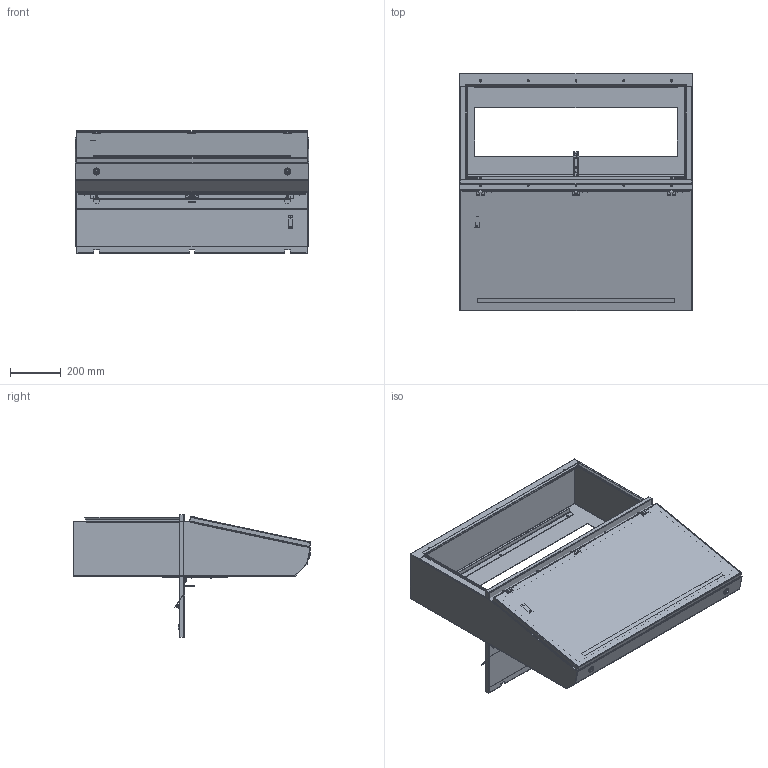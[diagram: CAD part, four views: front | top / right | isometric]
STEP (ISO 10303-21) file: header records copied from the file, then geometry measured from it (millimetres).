
FILE_DESCRIPTION( ( 'Unknown' ), '1' );
FILE_NAME( 'Q:/2000 SERIES/DESK UNITS/WEB DRAWINGS/STEP/2CSD83636.stp', 'Unknown', ( 'Unknown' ), ( 'Unknown' ), 'XStep 1.0', 'Unknown', ' ' );
FILE_SCHEMA( ( 'CONFIG_CONTROL_DESIGN' ) );
Length unit declared in the file: millimetre
Products named in the file (32): Assem1; Assem2; Assem3; Assem4; Assem5; Assem6; Assem7; Assem8; Assem9; 1; 2; 3; 4; 5; 6; 7; 8; 9; 10; 11; 12; 13; 14; 15; 16; 17; 18; 19; 20; 21; 22; 23
Bounding box: 914.4 x 931.78 x 482.6 mm (x, y, z)
Volume: 12299857.5 mm3; surface area: 13447557 mm2
Topology: 103 solids, 103 shells, 2557 faces, 6370 edges, 4113 vertices
Faces by surface type: plane 1689, cylinder 705, bspline 82, cone 42, torus 33, sphere 6
Full cylindrical faces by diameter (mm): 3.175 x12, 4.648 x7, 4.763 x12, 4.801 x8, 5 x9, 5.537 x22, 5.969 x5, 6 x4, 6.096 x5, 6.299 x4, 6.35 x17, 7.137 x15, 7.925 x4, 7.938 x12, 8.331 x4, 9.804 x11, 9.83 x8, 9.931 x7, 10.312 x4, 11.1 x4, 12.7 x14, 12.751 x4, 13.335 x4, 15.875 x4, 16.002 x4, 17.45 x4, 19.5 x4, 19.939 x4, 25.4 x4
Entity records: 23427 total; most frequent: CARTESIAN_POINT 5119, DIRECTION 3449, ORIENTED_EDGE 3392, EDGE_CURVE 1696, LINE 1229, VECTOR 1229, VERTEX_POINT 1124, AXIS2_PLACEMENT_3D 1110
